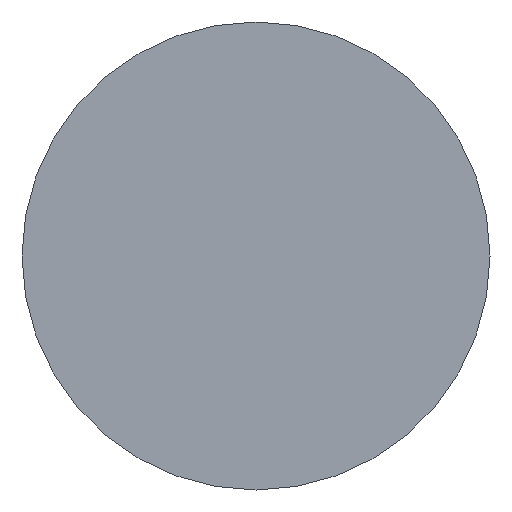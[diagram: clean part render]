
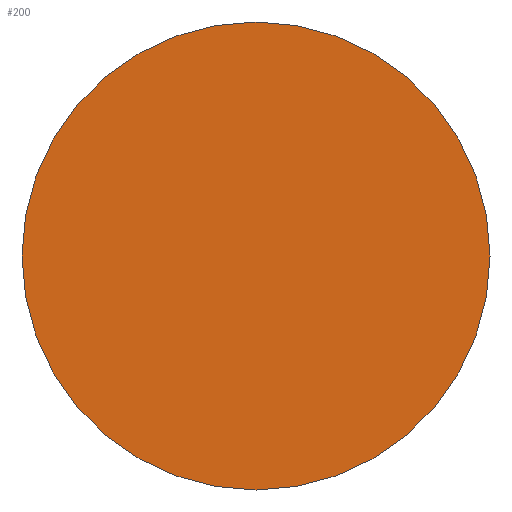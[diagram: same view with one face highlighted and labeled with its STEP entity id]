
A CAD part, front view. The second image highlights one B-rep face of the part: STEP entity #200.
In plain terms, the highlighted planar face has unit normal (0, -1, 0).
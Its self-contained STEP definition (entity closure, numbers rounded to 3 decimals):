
#11=CARTESIAN_POINT('',(0.,0.,0.));
#12=DIRECTION('',(0.,1.,0.));
#13=DIRECTION('',(1.,0.,0.));
#14=AXIS2_PLACEMENT_3D('',#11,#12,#13);
#20=CARTESIAN_POINT('',(0.,0.,0.));
#21=DIRECTION('',(0.,-1.,0.));
#22=DIRECTION('',(1.,0.,0.));
#23=AXIS2_PLACEMENT_3D('',#20,#21,#22);
#127=CARTESIAN_POINT('',(0.75,0.,0.));
#129=VERTEX_POINT('',#127);
#141=CARTESIAN_POINT('',(-0.75,0.,0.));
#143=VERTEX_POINT('',#141);
#191=CARTESIAN_POINT('',(0.,0.,0.));
#192=DIRECTION('',(0.,1.,0.));
#193=DIRECTION('',(1.,0.,0.));
#194=AXIS2_PLACEMENT_3D('',#191,#192,#193);
#195=PLANE('',#194);
#196=ORIENTED_EDGE('',*,*,#184,.F.);
#197=ORIENTED_EDGE('',*,*,#173,.T.);
#198=EDGE_LOOP('',(#196,#197));
#199=FACE_OUTER_BOUND('',#198,.F.);
#200=ADVANCED_FACE('',(#199),#195,.F.);
#15=CIRCLE('',#14,0.75);
#24=CIRCLE('',#23,0.75);
#173=EDGE_CURVE('',#129,#143,#15,.T.);
#184=EDGE_CURVE('',#129,#143,#24,.T.);
